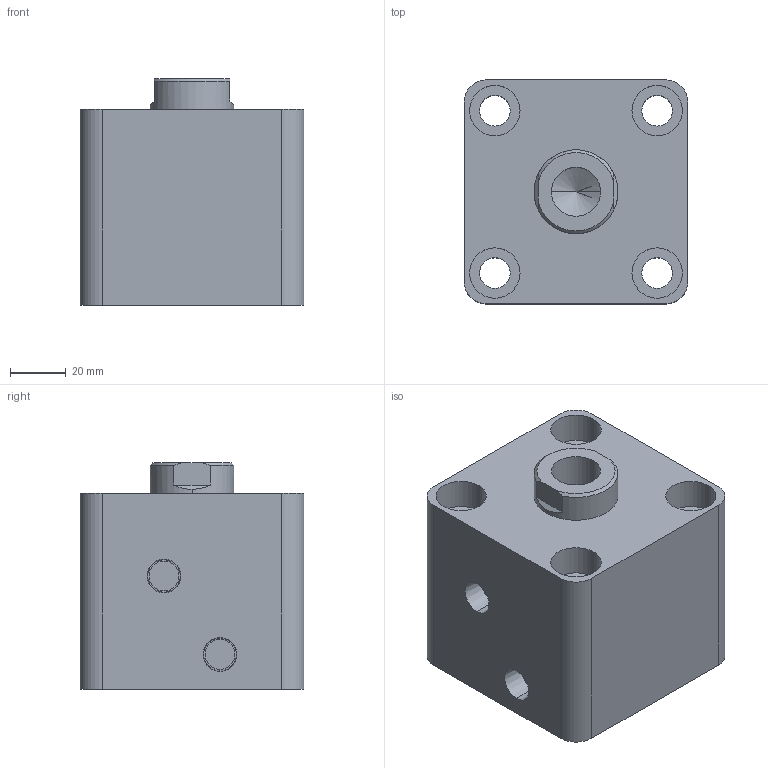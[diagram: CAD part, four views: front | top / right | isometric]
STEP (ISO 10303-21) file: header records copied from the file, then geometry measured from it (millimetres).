
FILE_DESCRIPTION (( 'STEP AP203' ), '1' );
FILE_NAME ('HTB-SD50-10N.STEP', '2019-10-07T07:05:54', ( '微软用户' ), ( '微软中国' ), 'SwSTEP 2.0', 'SolidWorks 2012', '' );
FILE_SCHEMA (( 'CONFIG_CONTROL_DESIGN' ));
Length unit declared in the file: millimetre
Products named in the file (3): HTB-SD50-10掛极; HTB-SD50-10N活塞杆; HTB-SD50-10N
Assembly tree (2 placements, depth 2):
  HTB-SD50-10N
    HTB-SD50-10掛极
    HTB-SD50-10N活塞杆
Bounding box: 80 x 80 x 81 mm (x, y, z)
Volume: 389627.7 mm3; surface area: 68935.2 mm2
Topology: 2 solids, 2 shells, 83 faces, 184 edges, 119 vertices
Faces by surface type: cylinder 42, plane 27, cone 8, torus 6
Entity records: 2655 total; most frequent: DIRECTION 456, CARTESIAN_POINT 417, ORIENTED_EDGE 364, AXIS2_PLACEMENT_3D 194, EDGE_CURVE 182, VERTEX_POINT 119, EDGE_LOOP 107, CIRCLE 106
